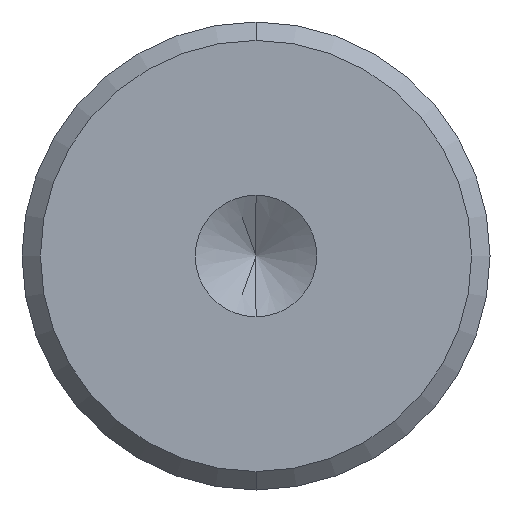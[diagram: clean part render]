
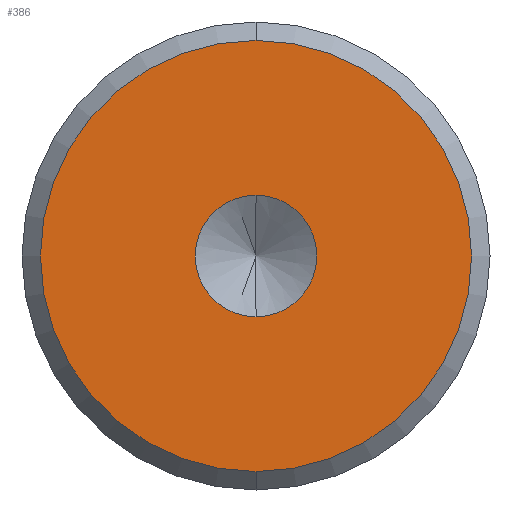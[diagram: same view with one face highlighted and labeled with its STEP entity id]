
A CAD part, front view. The second image highlights one B-rep face of the part: STEP entity #386.
In plain terms, the highlighted planar face has unit normal (0, -1, 0).
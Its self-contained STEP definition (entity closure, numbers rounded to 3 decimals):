
#3 = VERTEX_POINT ( 'NONE', #160 ) ;
#11 = EDGE_CURVE ( 'NONE', #195, #263, #351, .T. ) ;
#30 = DIRECTION ( 'NONE',  ( 0., 0., -1. ) ) ;
#32 = AXIS2_PLACEMENT_3D ( 'NONE', #64, #332, #418 ) ;
#39 = CIRCLE ( 'NONE', #243, 5.85 ) ;
#64 = CARTESIAN_POINT ( 'NONE',  ( 0., 0., 0. ) ) ;
#71 = PLANE ( 'NONE',  #140 ) ;
#79 = DIRECTION ( 'NONE',  ( 0., -1., 0. ) ) ;
#93 = AXIS2_PLACEMENT_3D ( 'NONE', #359, #79, #30 ) ;
#107 = CIRCLE ( 'NONE', #32, 5.85 ) ;
#118 = EDGE_CURVE ( 'NONE', #3, #330, #39, .T. ) ;
#126 = DIRECTION ( 'NONE',  ( 0., -1., 0. ) ) ;
#128 = CARTESIAN_POINT ( 'NONE',  ( 0., 0., 0. ) ) ;
#140 = AXIS2_PLACEMENT_3D ( 'NONE', #348, #500, #176 ) ;
#141 = CARTESIAN_POINT ( 'NONE',  ( 0., 0., -1.65 ) ) ;
#143 = EDGE_LOOP ( 'NONE', ( #362, #402 ) ) ;
#160 = CARTESIAN_POINT ( 'NONE',  ( 0., 0., 5.85 ) ) ;
#173 = EDGE_CURVE ( 'NONE', #263, #195, #393, .T. ) ;
#175 = ORIENTED_EDGE ( 'NONE', *, *, #11, .F. ) ;
#176 = DIRECTION ( 'NONE',  ( 0., 0., 1. ) ) ;
#195 = VERTEX_POINT ( 'NONE', #474 ) ;
#234 = EDGE_CURVE ( 'NONE', #330, #3, #107, .T. ) ;
#243 = AXIS2_PLACEMENT_3D ( 'NONE', #433, #262, #322 ) ;
#262 = DIRECTION ( 'NONE',  ( 0., -1., 0. ) ) ;
#263 = VERTEX_POINT ( 'NONE', #141 ) ;
#286 = DIRECTION ( 'NONE',  ( 0., 0., -1. ) ) ;
#301 = FACE_OUTER_BOUND ( 'NONE', #143, .T. ) ;
#322 = DIRECTION ( 'NONE',  ( 0., 0., 1. ) ) ;
#330 = VERTEX_POINT ( 'NONE', #466 ) ;
#332 = DIRECTION ( 'NONE',  ( 0., -1., 0. ) ) ;
#348 = CARTESIAN_POINT ( 'NONE',  ( 0., 0., 0. ) ) ;
#351 = CIRCLE ( 'NONE', #380, 1.65 ) ;
#359 = CARTESIAN_POINT ( 'NONE',  ( 0., 0., 0. ) ) ;
#362 = ORIENTED_EDGE ( 'NONE', *, *, #118, .T. ) ;
#380 = AXIS2_PLACEMENT_3D ( 'NONE', #128, #126, #286 ) ;
#386 = ADVANCED_FACE ( 'NONE', ( #389, #301 ), #71, .F. ) ;
#389 = FACE_BOUND ( 'NONE', #423, .T. ) ;
#393 = CIRCLE ( 'NONE', #93, 1.65 ) ;
#402 = ORIENTED_EDGE ( 'NONE', *, *, #234, .T. ) ;
#418 = DIRECTION ( 'NONE',  ( 0., 0., 1. ) ) ;
#423 = EDGE_LOOP ( 'NONE', ( #451, #175 ) ) ;
#433 = CARTESIAN_POINT ( 'NONE',  ( 0., 0., 0. ) ) ;
#451 = ORIENTED_EDGE ( 'NONE', *, *, #173, .F. ) ;
#466 = CARTESIAN_POINT ( 'NONE',  ( 0., 0., -5.85 ) ) ;
#474 = CARTESIAN_POINT ( 'NONE',  ( 0., 0., 1.65 ) ) ;
#500 = DIRECTION ( 'NONE',  ( 0., 1., 0. ) ) ;
